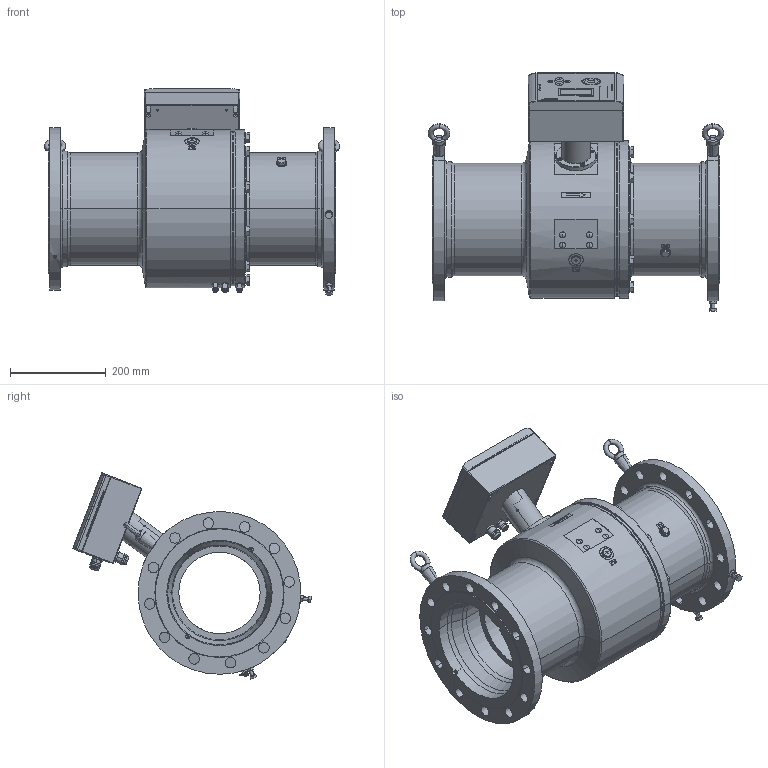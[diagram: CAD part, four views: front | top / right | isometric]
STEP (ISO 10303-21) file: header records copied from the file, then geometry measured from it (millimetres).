
FILE_DESCRIPTION((''),'2;1');
FILE_NAME('STANDARD_SW0001_PN16_RE','2023-09-11T08:31:42',('R85801'),(''),'CREO PARAMETRIC BY PTC INC, 2022281','CREO PARAMETRIC BY PTC INC, 2022281','');
FILE_SCHEMA(('AP242_MANAGED_MODEL_BASED_3D_ENGINEERING_MIM_LF { 1 0 10303 442 1 1 4 }'));
Length unit declared in the file: millimetre
Products named in the file (2): STANDARD_SW0001_PN16_RE; 10038_S235JRG2
Bounding box: 616.97 x 498.25 x 431.13 mm (x, y, z)
Volume: 18329597.3 mm3; surface area: 1734187.8 mm2
Topology: 12 solids, 22 shells, 3875 faces, 9791 edges, 6252 vertices
Faces by surface type: plane 1883, cylinder 648, extrusion 632, cone 392, torus 268, sphere 40, bspline 12
Entity records: 185569 total; most frequent: CARTESIAN_POINT 29945, ORIENTED_EDGE 19486, DIRECTION 17740, PRESENTATION_STYLE_ASSIGNMENT 14231, STYLED_ITEM 10392, CURVE_STYLE 10379, EDGE_CURVE 9743, VECTOR 6486
